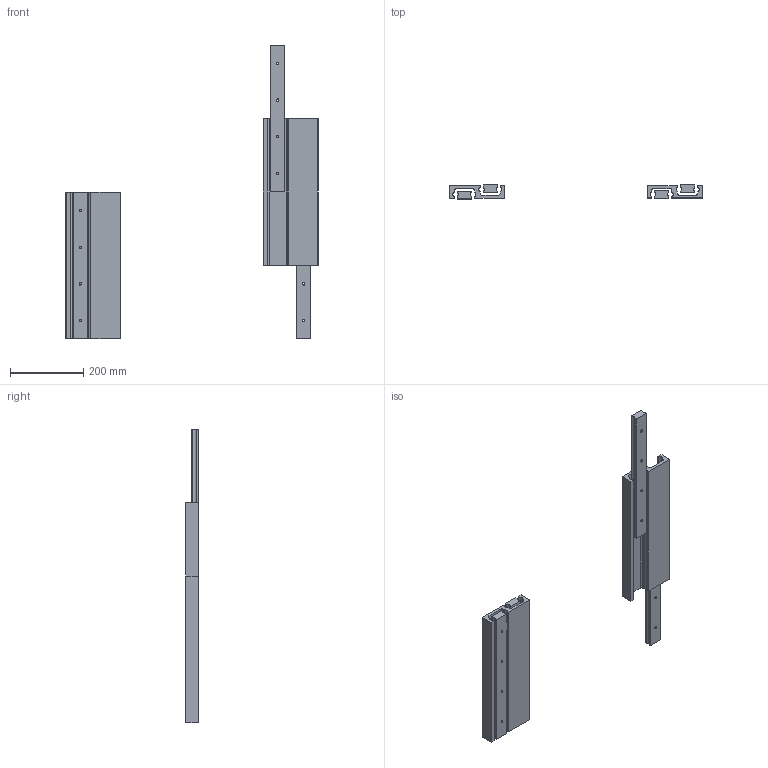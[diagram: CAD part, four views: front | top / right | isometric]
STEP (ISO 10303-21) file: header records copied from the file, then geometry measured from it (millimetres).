
FILE_DESCRIPTION((''),'2;1');
FILE_NAME('D:\01 WORK\DIST\02172A-Drawings for website\4140\STEP\4140-0040.stp','2008-10-24T11:44:47',('jtaylor'),(''),'Autodesk Inventor 2009','Autodesk Inventor 2009','');
FILE_SCHEMA(('AUTOMOTIVE_DESIGN { 1 0 10303 214 1 1 1 1 }'));
Length unit declared in the file: millimetre
Products named in the file (3): 4140-0040; 4140-0040 IM; 4140-0040 OM
Assembly tree (6 placements, depth 2):
  4140-0040
    4140-0040 IM  x4
    4140-0040 OM  x2
Bounding box: 689 x 38 x 802 mm (x, y, z)
Volume: 2905573.9 mm3; surface area: 597682.8 mm2
Topology: 6 solids, 6 shells, 124 faces, 352 edges, 240 vertices
Faces by surface type: plane 68, cylinder 40, bspline 16
Entity records: 1709 total; most frequent: CARTESIAN_POINT 341, DIRECTION 278, ORIENTED_EDGE 256, EDGE_CURVE 128, AXIS2_PLACEMENT_3D 97, VERTEX_POINT 88, VECTOR 84, LINE 84
